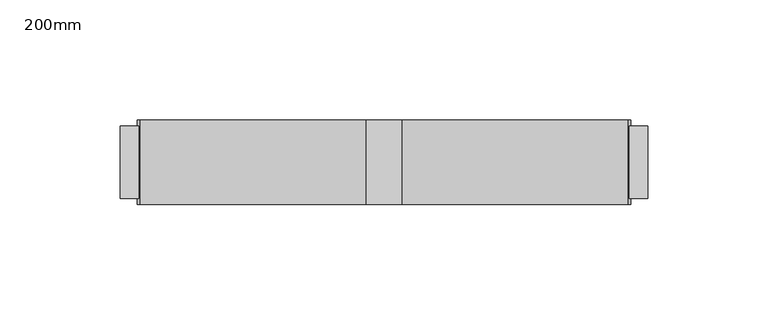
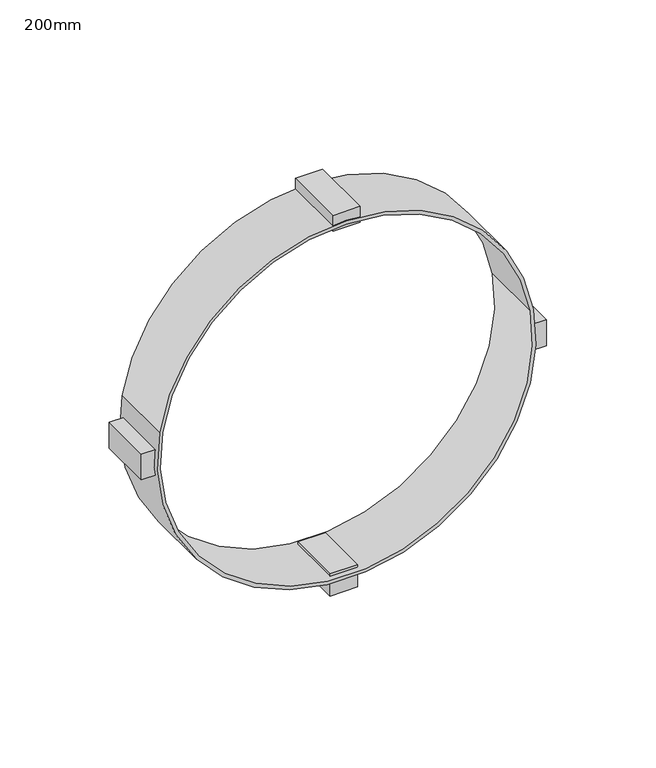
"""IFC4 building model written with IfcOpenShell, lengths in millimetres: pipe fitting geometry, AmancoWavin_Accesoriosdetubería_AS+_Soporte : 200mm."""

from ifc_helpers import new_model, si_unit, point, frame, frame_2d, origin, place, context, project, spatial, polyline, circle_curve, trimmed, segment, composite_curve, outline, extrude, source, transform, mapped, element, save


def pipe_fitting_200mm_55e5a060(model_context):
    return source(origin(), model_context, "Body", "SweptSolid", [
        extrude(outline(composite_curve([segment(trimmed(circle_curve(frame_2d((1.5, 0.0)), 102.5), [point((18.0359457, 101.157365))], [point((18.0359457, -101.157365))], False, "CARTESIAN"), True, "CONTINUOUS"), segment(trimmed(circle_curve(frame_2d((1.5, 0.0)), 102.5), [point((18.0359457, -101.157365))], [point((18.0359457, 101.157365))], False, "CARTESIAN"), True, "CONTINUOUS")], self_intersect=False), holes=[composite_curve([segment(trimmed(circle_curve(frame_2d((1.5, 0.0)), 100.5), [point((17.7132931, -99.1835628))], [point((17.7132931, 99.1835628))], True, "CARTESIAN"), True, "CONTINUOUS"), segment(trimmed(circle_curve(frame_2d((1.5, 0.0)), 100.5), [point((17.7132931, 99.1835628))], [point((17.7132931, -99.1835628))], True, "CARTESIAN"), True, "CONTINUOUS")], self_intersect=False)]), frame((0.0, -17.5, 0.0), z_axis=(0.0, 1.0, 0.0), x_axis=(0.0, 0.0, 1.0)), (0.0, 0.0, 1.0), 35.0),
        extrude(outline(polyline([(109.5, -15.0), (100.5, -15.0), (100.5, 15.0), (109.5, 15.0), (109.5, -15.0)])), frame((0.0, 0.0, -7.3902676), z_axis=(0.0, 0.0, 1.0), x_axis=(1.0, 0.0, 0.0)), (0.0, 0.0, 1.0), 14.7805353),
        extrude(outline(polyline([(-100.5, -15.0), (-109.5, -15.0), (-109.5, 15.0), (-100.5, 15.0), (-100.5, -15.0)])), frame((0.0, 0.0, -7.3902676), z_axis=(0.0, 0.0, 1.0), x_axis=(1.0, 0.0, 0.0)), (0.0, 0.0, 1.0), 14.7805353),
        extrude(outline(polyline([(7.3902676, -15.0), (-7.3902676, -15.0), (-7.3902676, 15.0), (7.3902676, 15.0), (7.3902676, -15.0)])), frame((0.0, 0.0, -109.5), z_axis=(0.0, 0.0, 1.0), x_axis=(1.0, 0.0, 0.0)), (0.0, 0.0, 1.0), 12.8333333),
        extrude(outline(polyline([(7.3902676, -17.5), (-7.3902676, -17.5), (-7.3902676, 17.5), (7.3902676, 17.5), (7.3902676, -17.5)])), frame((0.0, 0.0, 100.5), z_axis=(0.0, 0.0, 1.0), x_axis=(1.0, 0.0, 0.0)), (0.0, 0.0, 1.0), 9.0),
    ])


if __name__ == "__main__":
    model = new_model("IFC4")
    model_context = context("Model", 3, world=origin())
    ifc_project = project(units=[si_unit("LENGTHUNIT", "METRE", prefix="MILLI")], contexts=[model_context])
    site = spatial("IfcSite", under=ifc_project)
    building = spatial("IfcBuilding", under=site)
    placement = place(None, origin())
    pipe_fitting_200mm_shape = pipe_fitting_200mm_55e5a060(model_context)
    element("IfcPipeFitting", 1, ObjectType="AmancoWavin_Accesoriosdetubería_AS+_Soporte : 200mm", at=placement, inside=building, context=model_context, shape_type="MappedRepresentation", body=[
        mapped(pipe_fitting_200mm_shape, transform((0.0, 0.0, 0.0), x_axis=(1.0, 0.0, 0.0), y_axis=(0.0, 1.0, 0.0), z_axis=(0.0, 0.0, 1.0))),
    ])
    save(model, "model.ifc")
